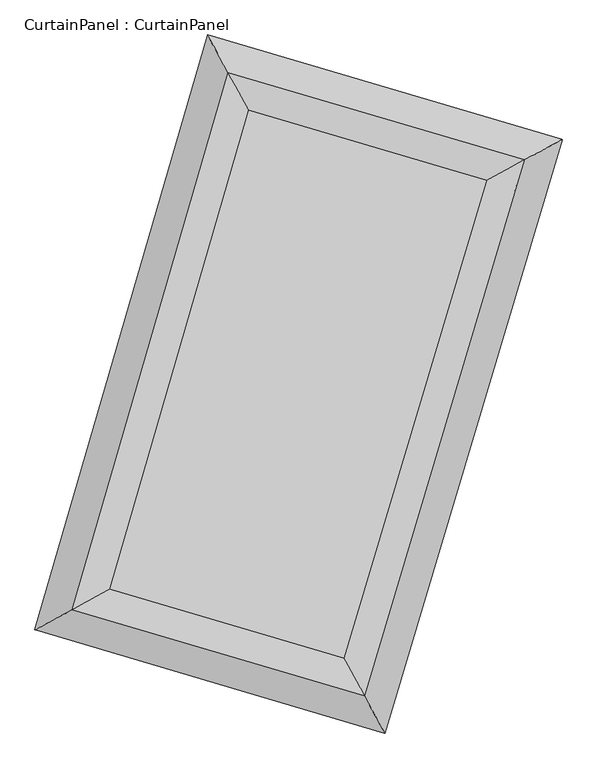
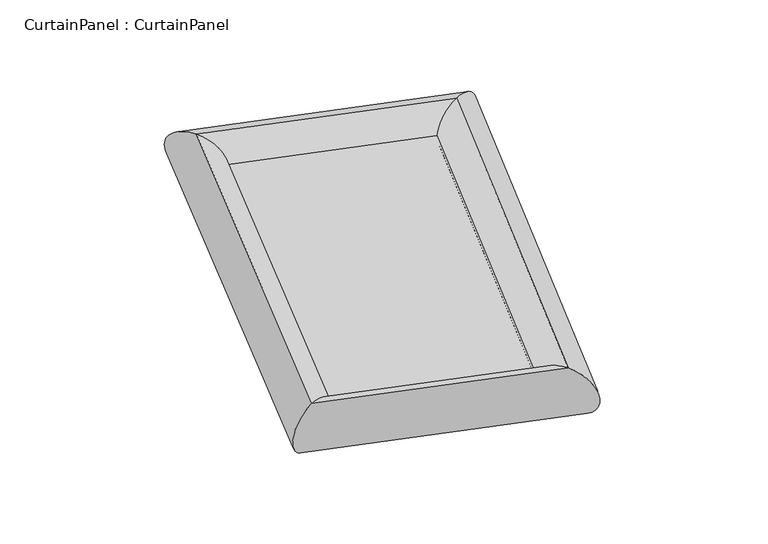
"""IFC4 building model written with IfcOpenShell, lengths in millimetres: plate geometry, CurtainPanel : CurtainPanel."""

from ifc_helpers import new_model, si_unit, frame, origin, origin_with_axes, place, context, project, spatial, polyline, ellipse_curve, outline, extrude, source, transform, mapped, element, save
from ifc_brep_helpers import cylinder_surface, advanced_brep


def curtainpanel_curtainpanel_20e0d437(model_context):
    return source(origin(), model_context, "Body", "SolidModel", [
        extrude(outline(polyline([(2938.1388266, 2938.1388266), (4068.9042386, 6835.3916514), (6221.8111647, 6201.1624332), (5059.1457701, 2313.3070889), (2938.1388266, 2938.1388266)])), origin_with_axes(), (0.0, 0.0, 1.0), 20.0),
        advanced_brep(
        [(2938.1388266, 2938.1388266, -220.0), (2938.1388266, 2938.1388266, 220.0), (5059.1457701, 2313.3070889, 220.0), (5059.1457701, 2313.3070889, -220.0), (6221.8111647, 6201.1624332, 220.0), (6221.8111647, 6201.1624332, -220.0), (4068.9042386, 6835.3916514, 220.0), (4068.9042386, 6835.3916514, -220.0)],
        [
            (0, 1, ellipse_curve(frame((2938.1388266, 2938.1388266, 0.0), z_axis=(0.4802668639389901, -0.8771224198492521, 0.0), x_axis=(-0.8771224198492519, -0.4802668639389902, 0.0)), 310.4915099, 220.0)),
            (1, 2),
            (2, 3, ellipse_curve(frame((5059.1457701, 2313.3070889, 0.0), z_axis=(-0.8790829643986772, -0.47666879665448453, 0.0), x_axis=(-0.4766687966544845, 0.8790829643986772, 0.0)), 310.4915099, 220.0)),
            (3, 0),
            (1, 0, ellipse_curve(frame((2938.1388266, 2938.1388266, 0.0), z_axis=(0.4802668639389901, -0.8771224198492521, 0.0), x_axis=(-0.8771224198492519, -0.4802668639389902, 0.0)), 310.4915099, 220.0)),
            (3, 2, ellipse_curve(frame((5059.1457701, 2313.3070889, 0.0), z_axis=(-0.8790829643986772, -0.47666879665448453, 0.0), x_axis=(-0.4766687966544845, 0.8790829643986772, 0.0)), 310.4915099, 220.0)),
            (2, 4),
            (4, 5, ellipse_curve(frame((6221.8111647, 6201.1624332, 0.0), z_axis=(0.4766687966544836, -0.8790829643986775, 0.0), x_axis=(-0.8790829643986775, -0.4766687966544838, 0.0)), 311.7663754, 220.0)),
            (5, 3),
            (5, 4, ellipse_curve(frame((6221.8111647, 6201.1624332, 0.0), z_axis=(0.4766687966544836, -0.8790829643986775, 0.0), x_axis=(-0.8790829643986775, -0.4766687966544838, 0.0)), 311.7663754, 220.0)),
            (4, 6),
            (6, 7, ellipse_curve(frame((4068.9042386, 6835.3916514, 0.0), z_axis=(0.8771224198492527, 0.4802668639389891, 0.0), x_axis=(0.4802668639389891, -0.8771224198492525, 0.0)), 311.7663754, 220.0)),
            (7, 5),
            (7, 6, ellipse_curve(frame((4068.9042386, 6835.3916514, 0.0), z_axis=(0.8771224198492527, 0.4802668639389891, 0.0), x_axis=(0.4802668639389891, -0.8771224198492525, 0.0)), 311.7663754, 220.0)),
            (6, 1),
            (0, 7),
        ],
        [
            cylinder_surface(frame((2938.1388266, 2938.1388266, 0.0), z_axis=(-0.9592422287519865, 0.28258511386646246, 0.0), x_axis=(0.28258511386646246, 0.9592422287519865, 0.0)), 220.0),
            cylinder_surface(frame((5059.1457701, 2313.3070889, 0.0), z_axis=(-0.2865132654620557, -0.9580762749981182, 0.0), x_axis=(-0.9580762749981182, 0.2865132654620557, 0.0)), 220.0),
            cylinder_surface(frame((6221.8111647, 6201.1624332, 0.0), z_axis=(0.959242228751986, -0.2825851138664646, 0.0), x_axis=(-0.2825851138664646, -0.959242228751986, 0.0)), 220.0),
            cylinder_surface(frame((4068.9042386, 6835.3916514, 0.0), z_axis=(0.27865221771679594, 0.9603920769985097, 0.0), x_axis=(0.9603920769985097, -0.27865221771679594, 0.0)), 220.0),
        ],
        [
            (0, [[1, 2, 3, 4]]),
            (0, [[5, -4, 6, -2]]),
            (1, [[-3, 7, 8, 9]]),
            (1, [[-6, -9, 10, -7]]),
            (2, [[-8, 11, 12, 13]]),
            (2, [[-10, -13, 14, -11]]),
            (3, [[-12, 15, -1, 16]]),
            (3, [[-14, -16, -5, -15]]),
        ],
    ),
    ])


if __name__ == "__main__":
    model = new_model("IFC4")
    model_context = context("Model", 3, world=origin())
    ifc_project = project(units=[si_unit("LENGTHUNIT", "METRE", prefix="MILLI")], contexts=[model_context])
    site = spatial("IfcSite", under=ifc_project)
    building = spatial("IfcBuilding", under=site)
    placement = place(None, origin())
    curtainpanel_curtainpanel_shape = curtainpanel_curtainpanel_20e0d437(model_context)
    element("IfcPlate", 1, ObjectType="CurtainPanel : CurtainPanel", at=placement, inside=building, context=model_context, shape_type="MappedRepresentation", body=[
        mapped(curtainpanel_curtainpanel_shape, transform((0.0, 0.0, 0.0), x_axis=(1.0, 0.0, 0.0), y_axis=(0.0, 1.0, 0.0), z_axis=(0.0, 0.0, 1.0))),
    ])
    save(model, "model.ifc")
